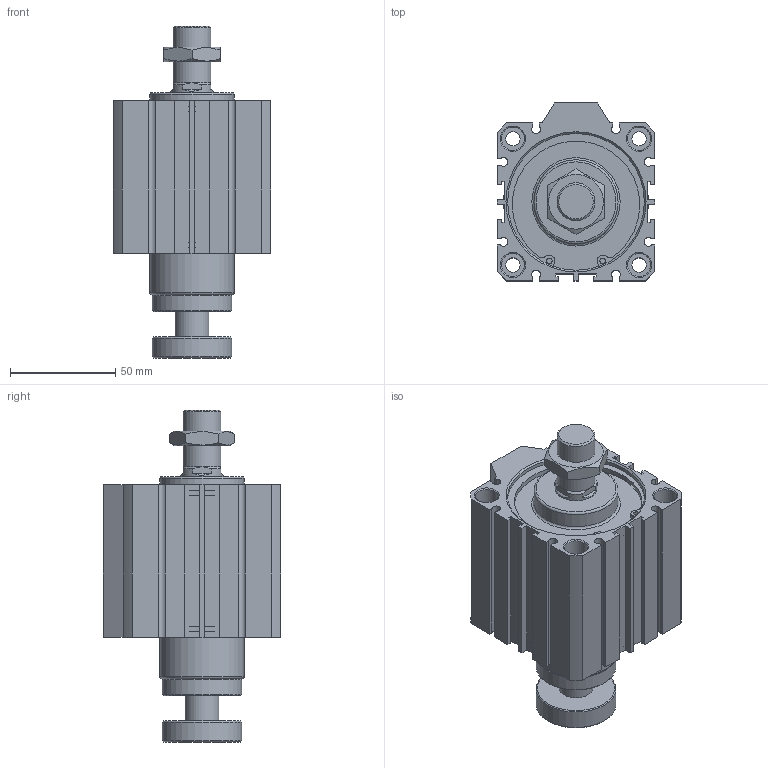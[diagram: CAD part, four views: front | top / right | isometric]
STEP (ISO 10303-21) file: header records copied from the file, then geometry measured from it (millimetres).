
FILE_DESCRIPTION((''),'2;1');
FILE_NAME('I:\3D電子目錄\氣缸\JDAR\JDAR-BS\JDAR63-BS\JDAR63x30-BS.stp','2007-05-05T14:38:10',('662F206'),(''),'Autodesk Inventor 11','Autodesk Inventor 11','');
FILE_SCHEMA(('AUTOMOTIVE_DESIGN { 1 0 10303 214 1 1 1 1 }'));
Length unit declared in the file: millimetre
Products named in the file (3): JDAR63-BS; R 形環 65
Assembly tree (3 placements, depth 2):
  JDAR63-BS
    JDAR63-BS
    R 形環 65  x2
Bounding box: 75 x 84.5 x 157.8 mm (x, y, z)
Volume: 428402.3 mm3; surface area: 70025.7 mm2
Topology: 3 solids, 3 shells, 203 faces, 490 edges, 319 vertices
Faces by surface type: plane 118, cylinder 56, cone 25, bspline 2, torus 2
Full cylindrical faces by diameter (mm): 2.7 x4, 3 x2, 6.8 x4, 11 x8, 16 x1, 18 x2, 20 x1, 38 x2, 40 x2, 65 x4, 68 x2
Entity records: 5389 total; most frequent: CARTESIAN_POINT 1017, DIRECTION 902, ORIENTED_EDGE 798, EDGE_CURVE 399, AXIS2_PLACEMENT_3D 328, VERTEX_POINT 293, EDGE_LOOP 284, VECTOR 246
